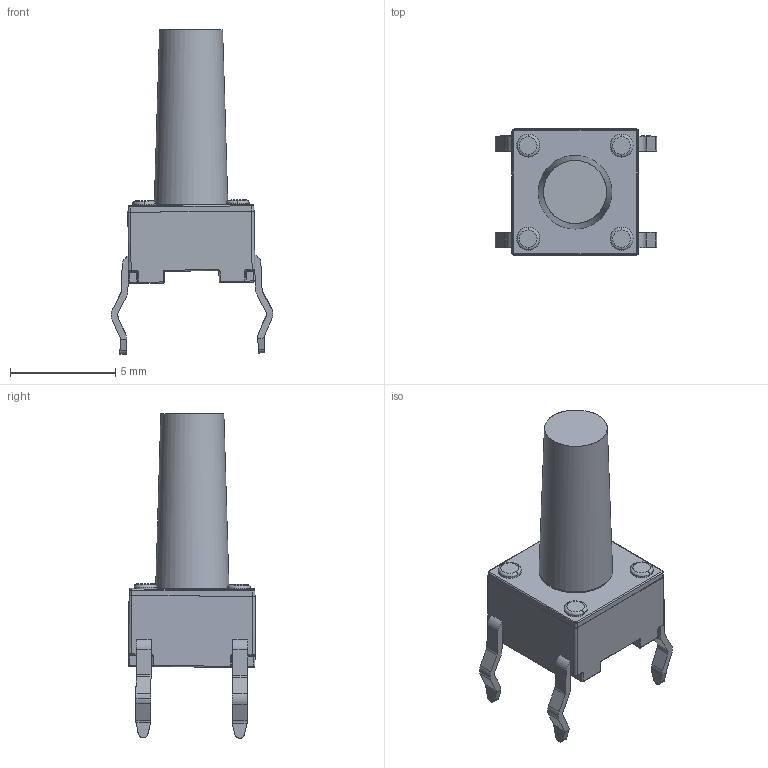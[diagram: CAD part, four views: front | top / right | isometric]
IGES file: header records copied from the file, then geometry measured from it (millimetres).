
Global section: file name: Filename.iges; native system: Open CASCADE 7.3; preprocessor: Open CASCADE IGES processor 7.3; date: 20210813.145328; units: millimetre
Bounding box: 7.69 x 6.03 x 15.44 mm (x, y, z)
Surface area: 302.5 mm2 (no closed solid volume)
Topology: 0 solids, 0 shells, 294 faces, 1410 edges, 1382 vertices
Faces by surface type: revolution 204, plane 90
